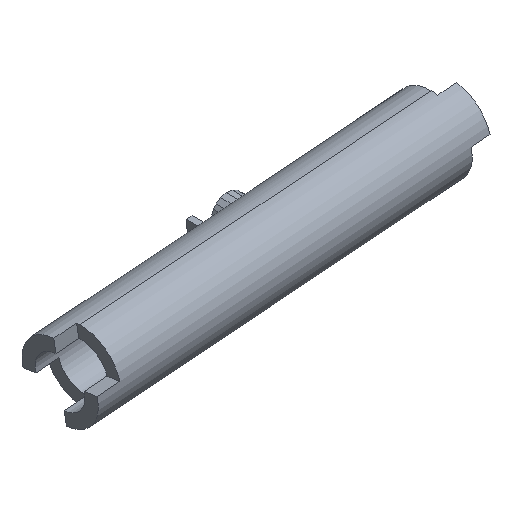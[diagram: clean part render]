
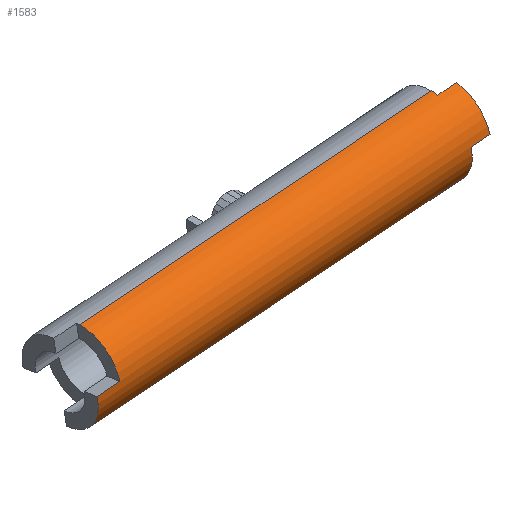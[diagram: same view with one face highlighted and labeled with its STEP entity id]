
A CAD part, isometric view. The second image highlights one B-rep face of the part: STEP entity #1583.
In plain terms, the highlighted cylindrical face has radius 5 mm (diameter 10 mm), a partial arc.
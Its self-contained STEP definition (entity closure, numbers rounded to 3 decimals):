
#15=CARTESIAN_POINT('',(1080.65,0.,-103.963));
#16=DIRECTION('',(-0.997,0.,-0.077));
#17=DIRECTION('',(-0.076,-0.174,0.982));
#18=AXIS2_PLACEMENT_3D('',#15,#16,#17);
#43=CARTESIAN_POINT('',(1080.65,0.,-103.963));
#44=DIRECTION('',(-0.997,0.,-0.077));
#45=DIRECTION('',(0.077,0.,-0.997));
#46=AXIS2_PLACEMENT_3D('',#43,#44,#45);
#73=DIRECTION('',(-0.997,0.,-0.077));
#74=VECTOR('',#73,46.247);
#75=CARTESIAN_POINT('',(1080.264,0.,-98.978));
#76=LINE('',#75,#74);
#398=DIRECTION('',(0.997,0.,0.077));
#399=VECTOR('',#398,2.5);
#400=CARTESIAN_POINT('',(1080.27,-0.868,
-99.054));
#401=LINE('',#400,#399);
#402=DIRECTION('',(-0.997,0.,-0.077));
#403=VECTOR('',#402,46.247);
#404=CARTESIAN_POINT('',(1081.036,0.,-108.948));
#405=LINE('',#404,#403);
#406=CARTESIAN_POINT('',(1034.541,0.,-107.535));
#407=DIRECTION('',(-0.997,0.,-0.077));
#408=DIRECTION('',(0.077,0.,-0.997));
#409=AXIS2_PLACEMENT_3D('',#406,#407,#408);
#411=DIRECTION('',(0.997,0.,0.077));
#412=VECTOR('',#411,3.);
#413=CARTESIAN_POINT('',(1031.935,-0.436,
-112.733));
#414=LINE('',#413,#412);
#415=CARTESIAN_POINT('',(1034.541,0.,-107.535));
#416=DIRECTION('',(-0.997,0.,-0.077));
#417=DIRECTION('',(-0.013,-0.985,0.173));
#418=AXIS2_PLACEMENT_3D('',#415,#416,#417);
#432=DIRECTION('',(0.997,0.,0.077));
#433=VECTOR('',#432,2.5);
#434=CARTESIAN_POINT('',(1080.583,-4.924,-103.097));
#435=LINE('',#434,#433);
#445=CARTESIAN_POINT('',(1083.143,0.,-103.77));
#446=DIRECTION('',(0.997,0.,0.077));
#447=DIRECTION('',(-0.076,-0.174,0.982));
#448=AXIS2_PLACEMENT_3D('',#445,#446,#447);
#524=DIRECTION('',(0.997,0.,0.077));
#525=VECTOR('',#524,3.);
#526=CARTESIAN_POINT('',(1031.483,-4.924,-106.901));
#527=LINE('',#526,#525);
#537=CARTESIAN_POINT('',(1031.55,0.,-107.767));
#538=DIRECTION('',(-0.997,0.,-0.077));
#539=DIRECTION('',(0.077,-0.087,-0.993));
#540=AXIS2_PLACEMENT_3D('',#537,#538,#539);
#1022=CARTESIAN_POINT('',(1031.935,-0.436,
-112.733));
#1023=CARTESIAN_POINT('',(1031.483,-4.924,
-106.901));
#1024=VERTEX_POINT('',#1022);
#1025=VERTEX_POINT('',#1023);
#1026=CARTESIAN_POINT('',(1034.926,-0.436,
-112.501));
#1027=VERTEX_POINT('',#1026);
#1028=CARTESIAN_POINT('',(1034.474,-4.924,
-106.67));
#1029=VERTEX_POINT('',#1028);
#1038=CARTESIAN_POINT('',(1082.762,-0.868,
-98.86));
#1039=CARTESIAN_POINT('',(1083.075,-4.924,
-102.904));
#1040=VERTEX_POINT('',#1038);
#1041=VERTEX_POINT('',#1039);
#1042=CARTESIAN_POINT('',(1080.27,-0.868,
-99.054));
#1043=VERTEX_POINT('',#1042);
#1044=CARTESIAN_POINT('',(1080.583,-4.924,
-103.097));
#1045=VERTEX_POINT('',#1044);
#1046=CARTESIAN_POINT('',(1034.155,0.,-102.55));
#1047=VERTEX_POINT('',#1046);
#1048=CARTESIAN_POINT('',(1034.927,0.,-112.52));
#1049=VERTEX_POINT('',#1048);
#1050=CARTESIAN_POINT('',(1080.264,0.,-98.978));
#1051=VERTEX_POINT('',#1050);
#1052=CARTESIAN_POINT('',(1081.036,0.,-108.948));
#1053=VERTEX_POINT('',#1052);
#1556=CARTESIAN_POINT('',(1080.65,0.,-103.963));
#1557=DIRECTION('',(-0.997,0.,-0.077));
#1558=DIRECTION('',(-0.077,0.,0.997));
#1559=AXIS2_PLACEMENT_3D('',#1556,#1557,#1558);
#1560=CYLINDRICAL_SURFACE('',#1559,5.);
#1561=ORIENTED_EDGE('',*,*,#1293,.F.);
#1563=ORIENTED_EDGE('',*,*,#1562,.T.);
#1565=ORIENTED_EDGE('',*,*,#1564,.T.);
#1567=ORIENTED_EDGE('',*,*,#1566,.F.);
#1568=ORIENTED_EDGE('',*,*,#1313,.F.);
#1569=ORIENTED_EDGE('',*,*,#1390,.T.);
#1571=ORIENTED_EDGE('',*,*,#1570,.T.);
#1573=ORIENTED_EDGE('',*,*,#1572,.F.);
#1575=ORIENTED_EDGE('',*,*,#1574,.T.);
#1577=ORIENTED_EDGE('',*,*,#1576,.T.);
#1579=ORIENTED_EDGE('',*,*,#1578,.T.);
#1580=ORIENTED_EDGE('',*,*,#1378,.F.);
#1581=EDGE_LOOP('',(#1561,#1563,#1565,#1567,#1568,#1569,#1571,#1573,#1575,#1577,
#1579,#1580));
#1582=FACE_OUTER_BOUND('',#1581,.F.);
#1583=ADVANCED_FACE('',(#1582),#1560,.T.);
#19=CIRCLE('',#18,5.);
#47=CIRCLE('',#46,5.);
#410=CIRCLE('',#409,5.);
#419=CIRCLE('',#418,5.);
#449=CIRCLE('',#448,5.);
#541=CIRCLE('',#540,5.);
#1293=EDGE_CURVE('',#1043,#1051,#19,.T.);
#1313=EDGE_CURVE('',#1053,#1045,#47,.T.);
#1378=EDGE_CURVE('',#1051,#1047,#76,.T.);
#1390=EDGE_CURVE('',#1053,#1049,#405,.T.);
#1562=EDGE_CURVE('',#1043,#1040,#401,.T.);
#1564=EDGE_CURVE('',#1040,#1041,#449,.T.);
#1566=EDGE_CURVE('',#1045,#1041,#435,.T.);
#1570=EDGE_CURVE('',#1049,#1027,#410,.T.);
#1572=EDGE_CURVE('',#1024,#1027,#414,.T.);
#1574=EDGE_CURVE('',#1024,#1025,#541,.T.);
#1576=EDGE_CURVE('',#1025,#1029,#527,.T.);
#1578=EDGE_CURVE('',#1029,#1047,#419,.T.);
